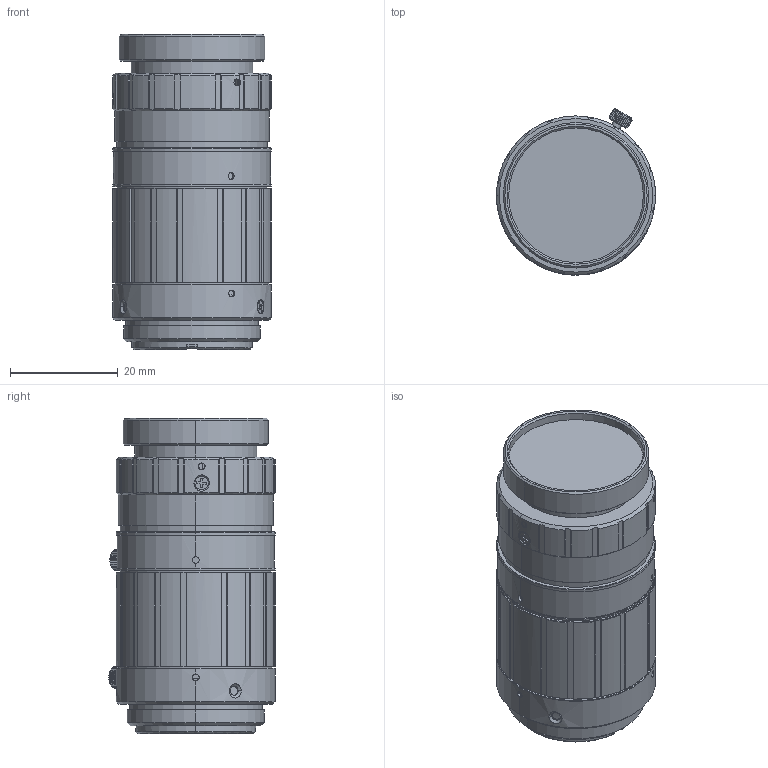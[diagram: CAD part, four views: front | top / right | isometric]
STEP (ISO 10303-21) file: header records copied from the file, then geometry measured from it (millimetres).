
FILE_DESCRIPTION (( 'STEP AP214' ), '1' );
FILE_NAME ('HF12XA-5M_3D_Modeling_20170120_ver1.0.STEP', '2017-01-20T06:32:58', ( '富士フイルム株式会社' ), ( '富士フイルム株式会社' ), 'SwSTEP 2.0', 'SolidWorks 2014', '' );
FILE_SCHEMA (( 'AUTOMOTIVE_DESIGN' ));
Length unit declared in the file: millimetre
Products named in the file (1): HF12XA-5M_3D_Modeling_20170120_ver1.0
Bounding box: 29.5 x 30.89 x 58.5 mm (x, y, z)
Volume: 35975.3 mm3; surface area: 8153.9 mm2
Topology: 1 solids, 2 shells, 531 faces, 1447 edges, 951 vertices
Faces by surface type: plane 304, cylinder 126, cone 101
Entity records: 23565 total; most frequent: CARTESIAN_POINT 5149, ORIENTED_EDGE 2890, DIRECTION 2227, EDGE_CURVE 1445, VERTEX_POINT 951, AXIS2_PLACEMENT_3D 813, VECTOR 601, LINE 601
